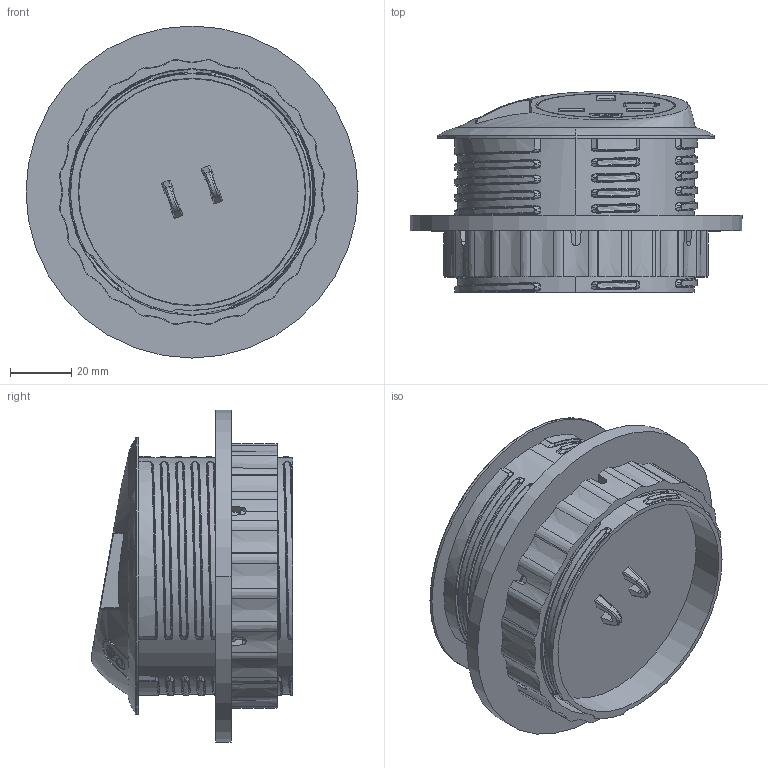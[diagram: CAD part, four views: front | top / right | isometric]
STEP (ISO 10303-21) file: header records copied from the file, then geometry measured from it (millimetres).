
FILE_DESCRIPTION (( 'STEP AP203' ), '1' );
FILE_NAME ('Pixel_TUF_6.STEP', '2022-11-25T08:54:57', ( '' ), ( '' ), 'SwSTEP 2.0', 'SolidWorks 2021', '' );
FILE_SCHEMA (( 'CONFIG_CONTROL_DESIGN' ));
Length unit declared in the file: millimetre
Products named in the file (1): Pixel_TUF_6
Bounding box: 108 x 65.4 x 108 mm (x, y, z)
Volume: 262844.4 mm3; surface area: 61213.8 mm2
Topology: 1 solids, 3 shells, 3664 faces, 10588 edges, 6828 vertices
Faces by surface type: plane 1734, bspline 1025, cylinder 749, cone 150, sphere 4, torus 2
Entity records: 271026 total; most frequent: CARTESIAN_POINT 184669, ORIENTED_EDGE 21164, DIRECTION 13659, EDGE_CURVE 10582, VERTEX_POINT 6827, LINE 5493, VECTOR 5493, AXIS2_PLACEMENT_3D 4083
